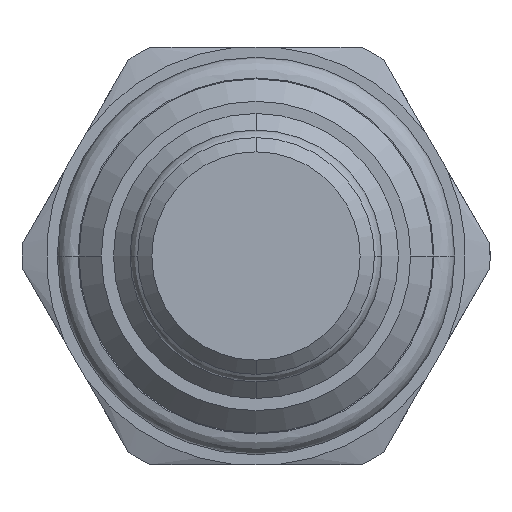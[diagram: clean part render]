
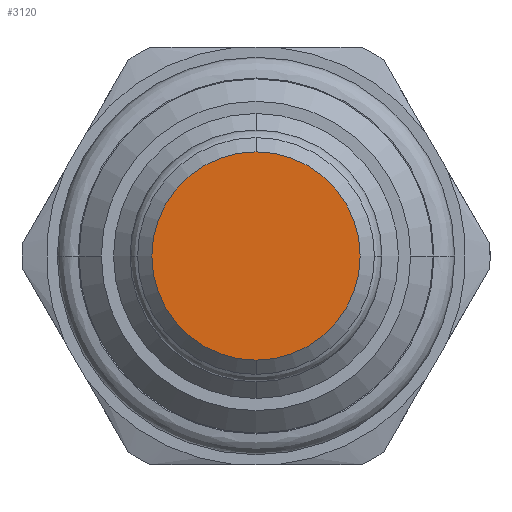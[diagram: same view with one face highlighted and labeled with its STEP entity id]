
A CAD part, front view. The second image highlights one B-rep face of the part: STEP entity #3120.
In plain terms, the highlighted planar face has unit normal (0, -1, 0).
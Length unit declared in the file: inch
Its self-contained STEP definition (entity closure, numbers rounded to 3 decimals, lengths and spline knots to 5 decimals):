
#1073=CARTESIAN_POINT('',(0.,-1.091,0.));
#1074=DIRECTION('',(0.,1.,0.));
#1075=DIRECTION('',(0.,0.,-1.));
#1076=AXIS2_PLACEMENT_3D('',#1073,#1074,#1075);
#1083=CARTESIAN_POINT('',(0.,-1.091,0.));
#1084=DIRECTION('',(0.,1.,0.));
#1085=DIRECTION('',(0.,0.,1.));
#1086=AXIS2_PLACEMENT_3D('',#1083,#1084,#1085);
#1423=CARTESIAN_POINT('',(0.,-1.091,-0.2185));
#1424=CARTESIAN_POINT('',(0.,-1.091,0.2185));
#1425=VERTEX_POINT('',#1423);
#1426=VERTEX_POINT('',#1424);
#3110=CARTESIAN_POINT('',(0.,-1.091,0.));
#3111=DIRECTION('',(0.,1.,0.));
#3112=DIRECTION('',(0.,0.,-1.));
#3113=AXIS2_PLACEMENT_3D('',#3110,#3111,#3112);
#3114=PLANE('',#3113);
#3115=ORIENTED_EDGE('',*,*,#3100,.T.);
#3117=ORIENTED_EDGE('',*,*,#3116,.T.);
#3118=EDGE_LOOP('',(#3115,#3117));
#3119=FACE_OUTER_BOUND('',#3118,.F.);
#3120=ADVANCED_FACE('',(#3119),#3114,.F.);
#1077=CIRCLE('',#1076,0.2185);
#1087=CIRCLE('',#1086,0.2185);
#3100=EDGE_CURVE('',#1425,#1426,#1077,.T.);
#3116=EDGE_CURVE('',#1426,#1425,#1087,.T.);
